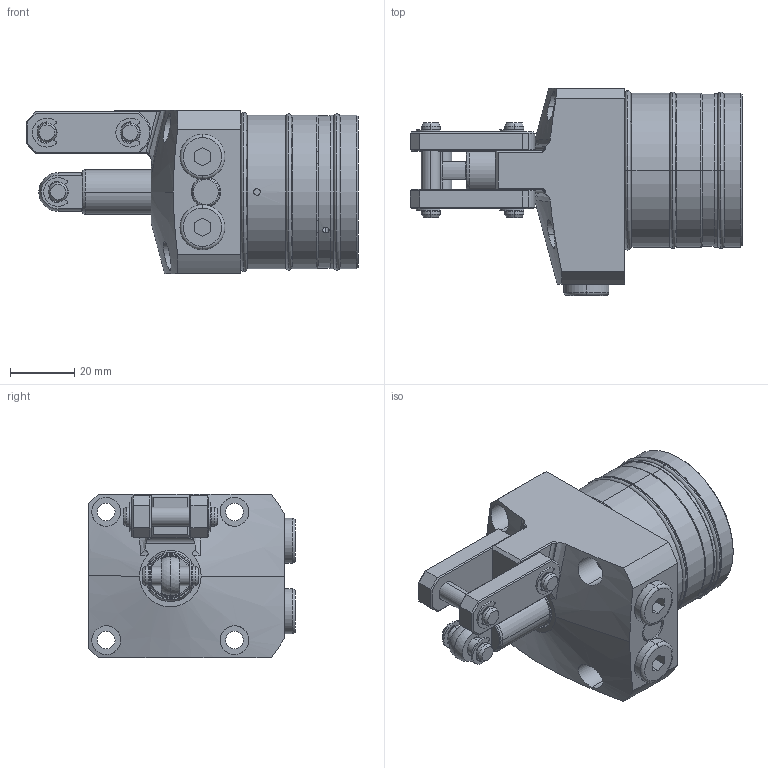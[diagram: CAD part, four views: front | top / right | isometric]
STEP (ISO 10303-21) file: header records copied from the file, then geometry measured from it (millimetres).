
FILE_DESCRIPTION(/* description */ (''),/* implementation_level */ '2;1');
FILE_NAME(/* name */ 'KTPW48-RE.stp',/* time_stamp */ '2022-11-19T15:26:33+08:00',/* author */ (''),/* organization */ (''),/* preprocessor_version */ 'ST-DEVELOPER v16.7',/* originating_system */ 'SIEMENS PLM Software NX 12.0',/* authorisation */ '');
FILE_SCHEMA (('AP203_CONFIGURATION_CONTROLLED_3D_DESIGN_OF_MECHANICAL_PARTS_AND_ASSEMBLIES_MIM_LF { 1 0 10303 403 2 1 2}'));
Length unit declared in the file: millimetre
Products named in the file (10): KTPW48-RE-02; KTPW48-RE-06; KTPW48-RE-04; KTPW48-RE-08; KTPW48-RE-09; KTPW48-RE-01; KTPW48-RE-03; KTPW48-RE-05; KTPW48-RE-07; KTPW48-RE_stp
Assembly tree (19 placements, depth 2):
  KTPW48-RE_stp
    KTPW48-RE-07  x6
    KTPW48-RE-05  x2
    KTPW48-RE-03
    KTPW48-RE-01
    KTPW48-RE-09  x3
    KTPW48-RE-08  x2
    KTPW48-RE-04  x2
    KTPW48-RE-06
    KTPW48-RE-02
Bounding box: 103.5 x 64.5 x 51 mm (x, y, z)
Volume: 148706.6 mm3; surface area: 37305.9 mm2
Topology: 22 solids, 24 shells, 685 faces, 1574 edges, 969 vertices
Faces by surface type: cylinder 270, plane 201, torus 122, cone 82, bspline 8, sphere 2
Full cylindrical faces by diameter (mm): 48 x1
Entity records: 13147 total; most frequent: CARTESIAN_POINT 2822, DIRECTION 2059, ORIENTED_EDGE 1702, AXIS2_PLACEMENT_3D 867, EDGE_CURVE 851, VERTEX_POINT 516, CIRCLE 462, EDGE_LOOP 447
